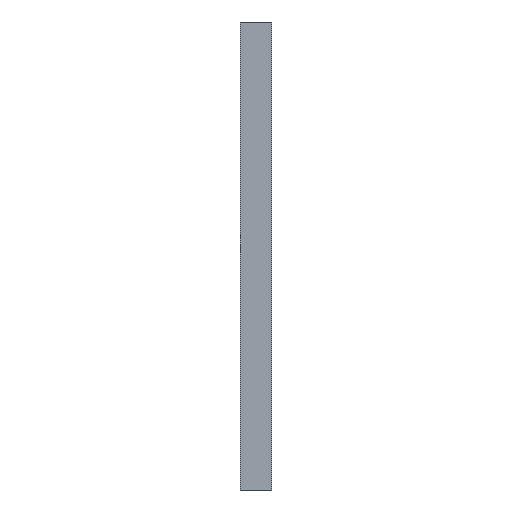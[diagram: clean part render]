
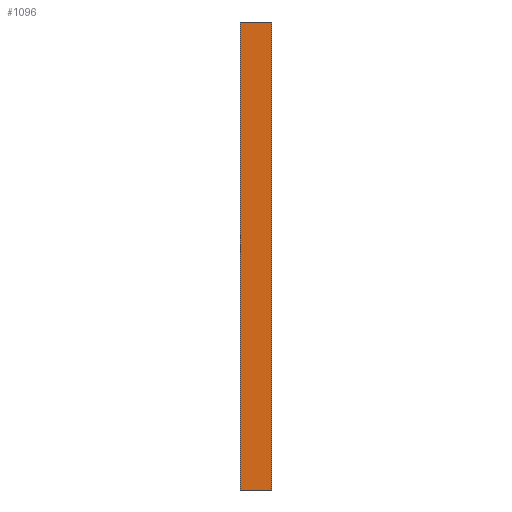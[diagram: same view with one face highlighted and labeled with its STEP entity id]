
A CAD part, left-side view. The second image highlights one B-rep face of the part: STEP entity #1096.
In plain terms, the highlighted planar face has unit normal (-1, 0, 0).
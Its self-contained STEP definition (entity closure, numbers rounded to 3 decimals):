
#19 = LINE ( 'NONE', #802, #112 ) ;
#65 = VERTEX_POINT ( 'NONE', #191 ) ;
#67 = LINE ( 'NONE', #229, #891 ) ;
#68 = VERTEX_POINT ( 'NONE', #801 ) ;
#69 = CARTESIAN_POINT ( 'NONE',  ( -198., 0., 198. ) ) ;
#108 = DIRECTION ( 'NONE',  ( 0., -1., 0. ) ) ;
#112 = VECTOR ( 'NONE', #108, 1000. ) ;
#119 = ORIENTED_EDGE ( 'NONE', *, *, #301, .T. ) ;
#135 = DIRECTION ( 'NONE',  ( 0., 0., 1. ) ) ;
#187 = ORIENTED_EDGE ( 'NONE', *, *, #816, .F. ) ;
#191 = CARTESIAN_POINT ( 'NONE',  ( -198., 27., 198. ) ) ;
#206 = FACE_OUTER_BOUND ( 'NONE', #208, .T. ) ;
#208 = EDGE_LOOP ( 'NONE', ( #119, #341, #187, #685 ) ) ;
#229 = CARTESIAN_POINT ( 'NONE',  ( -198., 27., 198. ) ) ;
#251 = VECTOR ( 'NONE', #321, 1000. ) ;
#253 = AXIS2_PLACEMENT_3D ( 'NONE', #1029, #601, #524 ) ;
#274 = CARTESIAN_POINT ( 'NONE',  ( -198., 0., -198. ) ) ;
#301 = EDGE_CURVE ( 'NONE', #1087, #515, #532, .T. ) ;
#321 = DIRECTION ( 'NONE',  ( 0., 0., 1. ) ) ;
#325 = CARTESIAN_POINT ( 'NONE',  ( -198., 0., 198. ) ) ;
#341 = ORIENTED_EDGE ( 'NONE', *, *, #431, .F. ) ;
#349 = EDGE_CURVE ( 'NONE', #68, #1087, #19, .T. ) ;
#431 = EDGE_CURVE ( 'NONE', #65, #515, #776, .T. ) ;
#498 = DIRECTION ( 'NONE',  ( 0., -1., 0. ) ) ;
#515 = VERTEX_POINT ( 'NONE', #325 ) ;
#524 = DIRECTION ( 'NONE',  ( 0., 0., -1. ) ) ;
#532 = LINE ( 'NONE', #69, #251 ) ;
#601 = DIRECTION ( 'NONE',  ( 1., 0., 0. ) ) ;
#671 = CARTESIAN_POINT ( 'NONE',  ( -198., 27., 198. ) ) ;
#685 = ORIENTED_EDGE ( 'NONE', *, *, #349, .T. ) ;
#702 = PLANE ( 'NONE',  #253 ) ;
#776 = LINE ( 'NONE', #671, #841 ) ;
#801 = CARTESIAN_POINT ( 'NONE',  ( -198., 27., -198. ) ) ;
#802 = CARTESIAN_POINT ( 'NONE',  ( -198., 27., -198. ) ) ;
#816 = EDGE_CURVE ( 'NONE', #68, #65, #67, .T. ) ;
#841 = VECTOR ( 'NONE', #498, 1000. ) ;
#891 = VECTOR ( 'NONE', #135, 1000. ) ;
#1029 = CARTESIAN_POINT ( 'NONE',  ( -198., 27., 198. ) ) ;
#1087 = VERTEX_POINT ( 'NONE', #274 ) ;
#1096 = ADVANCED_FACE ( 'NONE', ( #206 ), #702, .F. ) ;
